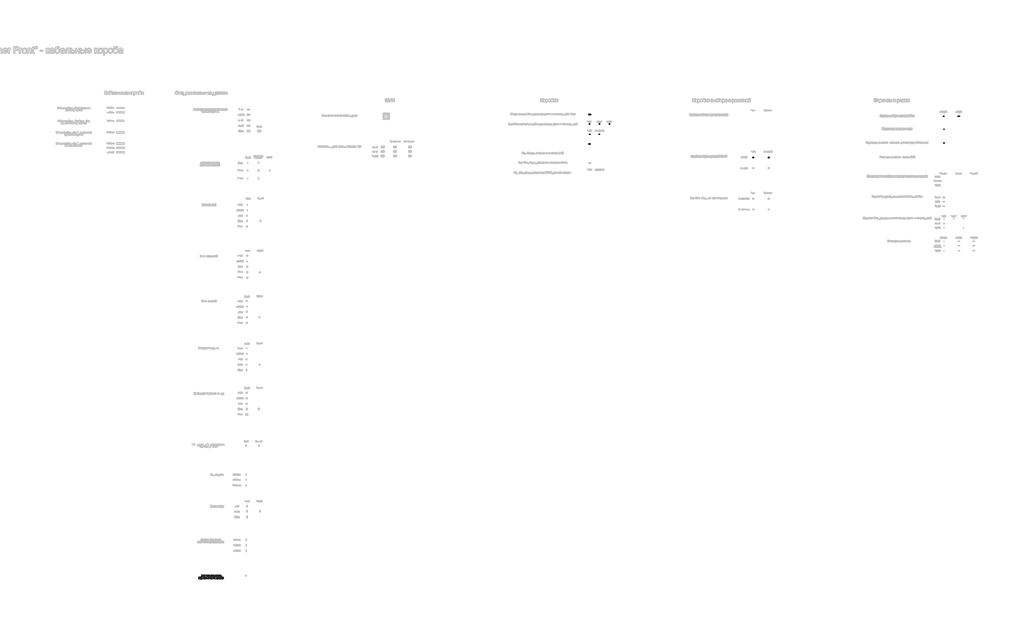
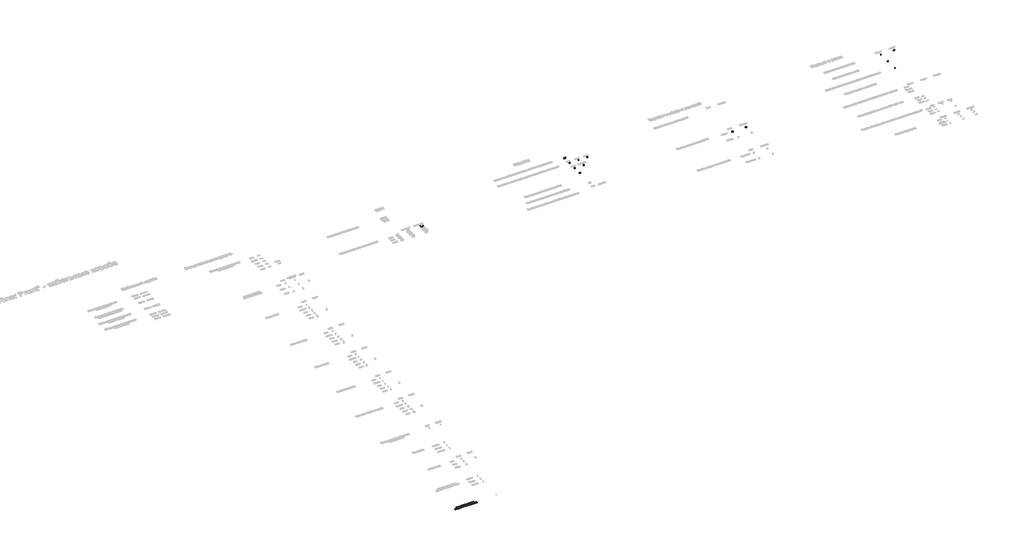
# One storey, part 3 of 48: 16 proxies.
"""IFC4 building model written with IfcOpenShell, lengths in millimetres."""

from ifc_helpers import new_model, si_unit, origin, origin_with_axes, place, context, project, spatial, polyline, outline, extrude, transform, mapped, element, save
from components import electrical_fixtures_89ff15f4, electrical_fixtures_2476e472, electrical_fixtures_2044470d, electrical_fixtures_13d03f2a, electrical_fixtures_9115882a, electrical_fixtures_15421d68, electrical_fixtures_28776af8, electrical_fixtures_e3511963, electrical_fixtures_ee8f7c53, electrical_fixtures_ff20663f, electrical_fixtures_f8ef05b3, proxy_45x45_d1c3b26b, viva_a7b974af

model = new_model("IFC4")

# Units and contexts
model_context = context("Model", 3, world=origin())
ifc_project = project(units=[si_unit("LENGTHUNIT", "METRE", prefix="MILLI")], contexts=[model_context])

# Site, building, storey
site = spatial("IfcSite", under=ifc_project)
building = spatial("IfcBuilding", under=site)
storey = spatial("IfcBuildingStorey", under=building, Name="Этаж 01", Elevation=0.0)

# Proxies
placement = place(None, origin())
element("IfcBuildingElementProxy", 1, Name="150 мм Arial", ObjectType="150 мм Arial", at=placement, inside=storey, context=model_context, shape_type="SweptSolid", body=[
    extrude(outline(polyline([(8779.1000301, -38574.0852323), (8839.2487363, -38423.4007671), (8855.2883913, -38423.4007671), (8915.4370975, -38574.0852323), (8895.5346815, -38574.0852323), (8878.281016, -38526.996337), (8816.2193234, -38526.996337), (8799.002446, -38574.0852323), (8779.1000301, -38574.0852323)]), holes=[polyline([(8823.1355049, -38508.1607788), (8871.4016227, -38508.1607788), (8857.826777, -38471.1150619), (8847.2685638, -38442.2363253), (8837.8875729, -38467.8777003), (8823.1355049, -38508.1607788)])]), origin_with_axes(), (0.0, 0.0, 1.0), 20.0),
    extrude(outline(polyline([(8949.6869112, -38463.4263282), (9020.3202543, -38463.4263282), (9020.3202543, -38555.2496742), (9034.4469229, -38555.2496742), (9034.4469229, -38604.6930143), (9015.6113648, -38604.6930143), (9015.6113648, -38574.0852323), (8937.9146874, -38574.0852323), (8937.9146874, -38604.6930143), (8919.0791292, -38604.6930143), (8919.0791292, -38555.2496742), (8930.8513531, -38555.2496742), (8939.409208, -38539.7848348), (8945.401086, -38519.3259974), (8949.6869112, -38463.4263282)]), holes=[polyline([(8966.1680246, -38482.2618864), (8961.7534407, -38525.1753211), (8952.041356, -38555.2496742), (9001.4846962, -38555.2496742), (9001.4846962, -38482.2618864), (8966.1680246, -38482.2618864)])]), origin_with_axes(), (0.0, 0.0, 1.0), 20.0),
    extrude(outline(polyline([(9126.2702689, -38559.9585637), (9108.0049279, -38572.724069), (9087.8266004, -38576.4396771), (9072.0858496, -38574.204794), (9060.4745741, -38567.5001446), (9053.3146707, -38557.3190104), (9050.9280363, -38544.6546727), (9054.5332799, -38529.7554519), (9064.0062412, -38518.9397213), (9077.1948108, -38512.7593038), (9093.4919831, -38509.9266124), (9126.1599043, -38503.4518893), (9126.2702689, -38499.2580345), (9124.9734849, -38490.8519309), (9121.0831328, -38485.3520951), (9112.3827236, -38481.268605), (9100.2610119, -38479.9074416), (9081.2047245, -38483.5310792), (9072.1180392, -38496.388555), (9053.2824811, -38494.0341102), (9061.4310673, -38475.6400104), (9077.8386043, -38464.861068), (9102.689033, -38461.0718834), (9125.5161108, -38464.4196096), (9138.4103748, -38472.8257132), (9144.1861221, -38485.6096125), (9145.1058271, -38502.0907259), (9145.1058271, -38525.524809), (9146.0623203, -38558.2479125), (9149.8147166, -38574.0852323), (9130.9791585, -38574.0852323), (9126.2702689, -38559.9585637)]), holes=[polyline([(9126.2702689, -38522.2874474), (9095.8832161, -38528.0631948), (9079.6780142, -38531.1166153), (9072.3387684, -38536.0830222), (9069.7635945, -38543.3302976), (9075.3737949, -38553.5206288), (9091.8365142, -38557.604119), (9110.8928015, -38553.0975645), (9123.1800602, -38542.1898634), (9126.1599043, -38527.6217364), (9126.2702689, -38522.2874474)])]), origin_with_axes(), (0.0, 0.0, 1.0), 20.0),
    extrude(outline(polyline([(9171.0047195, -38463.4263282), (9255.7647312, -38463.4263282), (9255.7647312, -38574.0852323), (9236.9291731, -38574.0852323), (9236.9291731, -38482.2618864), (9189.8402777, -38482.2618864), (9189.8402777, -38574.0852323), (9171.0047195, -38574.0852323), (9171.0047195, -38463.4263282)])), origin_with_axes(), (0.0, 0.0, 1.0), 20.0),
    extrude(outline(polyline([(9274.6002894, -38463.4263282), (9364.0691906, -38463.4263282), (9364.0691906, -38482.2618864), (9328.7525191, -38482.2618864), (9328.7525191, -38574.0852323), (9309.9169609, -38574.0852323), (9309.9169609, -38482.2618864), (9274.6002894, -38482.2618864), (9274.6002894, -38463.4263282)])), origin_with_axes(), (0.0, 0.0, 1.0), 20.0),
    extrude(outline(polyline([(9458.0262522, -38541.1230056), (9476.4939283, -38543.4774503), (9469.8398627, -38557.3925868), (9459.2218687, -38567.7944502), (9444.8790694, -38574.2783704), (9427.0505882, -38576.4396771), (9404.9500773, -38572.7102734), (9387.9447321, -38561.5220622), (9377.1014103, -38543.6016105), (9373.4869697, -38519.6754853), (9377.1381985, -38494.9446181), (9388.0918849, -38476.4493508), (9404.8673039, -38464.9162503), (9425.9837304, -38461.0718834), (9446.4425678, -38464.9070532), (9462.790324, -38476.4125626), (9473.5094856, -38494.8710417), (9477.0825395, -38519.5651207), (9476.9721749, -38524.6418922), (9392.3225278, -38524.6418922), (9395.582882, -38538.7409697), (9403.1566526, -38549.1060449), (9414.0873464, -38555.4796004), (9427.4184702, -38557.604119), (9445.8861463, -38553.6677816), (9458.0262522, -38541.1230056)]), holes=[polyline([(9392.3225278, -38505.806334), (9458.2469814, -38505.806334), (9455.6993985, -38495.8551261), (9450.7054005, -38488.7366095), (9439.7241229, -38482.1147336), (9425.910154, -38479.9074416), (9413.2136266, -38481.6686766), (9402.7151942, -38486.9523818), (9395.4173351, -38495.18834), (9392.3225278, -38505.806334)])]), origin_with_axes(), (0.0, 0.0, 1.0), 20.0),
    extrude(outline(polyline([(9495.9180977, -38616.4652382), (9495.9180977, -38463.4263282), (9514.7536558, -38463.4263282), (9514.7536558, -38481.8940044), (9527.7766785, -38466.2774137), (9545.3614378, -38461.0718834), (9558.0993519, -38462.8928993), (9569.2369793, -38468.3559469), (9578.3052705, -38477.1299325), (9584.8351759, -38488.8837623), (9590.0958884, -38517.9096517), (9588.6105649, -38534.0182845), (9584.1545942, -38548.4254632), (9576.8705307, -38560.4000221), (9566.9009286, -38569.2107959), (9555.2896532, -38574.6324568), (9543.0805695, -38576.4396771), (9526.6914266, -38571.6020289), (9514.7536558, -38559.3699525), (9514.7536558, -38616.4652382), (9495.9180977, -38616.4652382)]), holes=[polyline([(9514.7536558, -38519.6386971), (9516.7908024, -38536.5244806), (9522.902242, -38548.3334927), (9531.9199494, -38555.2864624), (9542.6758993, -38557.604119), (9553.606593, -38555.2036889), (9562.8542267, -38548.0023989), (9569.1588044, -38535.7611255), (9571.2603303, -38518.2407455), (9569.2093882, -38501.4469324), (9563.0565618, -38489.4723735), (9554.05265, -38482.2986746), (9543.4484514, -38479.9074416), (9532.8028662, -38482.4504259), (9523.454065, -38490.0793787), (9516.9287581, -38502.5551769), (9514.7536558, -38519.6386971)])]), origin_with_axes(), (0.0, 0.0, 1.0), 20.0),
    extrude(outline(polyline([(9686.628124, -38463.4263282), (9757.261467, -38463.4263282), (9757.261467, -38555.2496742), (9771.3881357, -38555.2496742), (9771.3881357, -38604.6930143), (9752.5525775, -38604.6930143), (9752.5525775, -38574.0852323), (9674.8559001, -38574.0852323), (9674.8559001, -38604.6930143), (9656.020342, -38604.6930143), (9656.020342, -38555.2496742), (9667.7925658, -38555.2496742), (9676.3504207, -38539.7848348), (9682.3422987, -38519.3259974), (9686.628124, -38463.4263282)]), holes=[polyline([(9703.1092374, -38482.2618864), (9698.6946534, -38525.1753211), (9688.9825687, -38555.2496742), (9738.4259089, -38555.2496742), (9738.4259089, -38482.2618864), (9703.1092374, -38482.2618864)])]), origin_with_axes(), (0.0, 0.0, 1.0), 20.0),
    extrude(outline(polyline([(9801.9959177, -38463.4263282), (9886.7559293, -38463.4263282), (9886.7559293, -38573.9748677), (9867.9203712, -38573.9748677), (9867.9203712, -38482.2618864), (9820.8314758, -38482.2618864), (9820.8314758, -38535.0529527), (9819.5622829, -38559.4067407), (9812.5909191, -38569.6890425), (9796.1098057, -38574.0852323), (9780.8059147, -38573.1287392), (9780.8059147, -38555.2496742), (9789.2304124, -38555.2496742), (9797.7468806, -38554.0908459), (9801.1497891, -38550.412026), (9801.9959177, -38533.9860949), (9801.9959177, -38463.4263282)])), origin_with_axes(), (0.0, 0.0, 1.0), 20.0),
    extrude(outline(polyline([(9999.7692783, -38463.4263282), (9999.7692783, -38574.0852323), (9980.9337201, -38574.0852323), (9980.9337201, -38531.7052265), (9970.6698124, -38531.7052265), (9956.6902966, -38534.0964595), (9943.5569094, -38550.1729027), (9928.547324, -38574.0852323), (9906.7687099, -38574.0852323), (9925.6778444, -38543.8453323), (9934.0287657, -38532.9928135), (9941.7174994, -38528.1735593), (9928.8416296, -38524.228025), (9919.7917325, -38516.7324293), (9914.4390495, -38506.7628272), (9912.6548218, -38495.3952736), (9915.09204, -38482.5010096), (9922.4036947, -38472.2922843), (9934.3322684, -38465.6428172), (9950.6202437, -38463.4263282), (9999.7692783, -38463.4263282)]), holes=[polyline([(9980.9337201, -38482.2618864), (9956.1016854, -38482.2618864), (9943.2763994, -38483.3517368), (9935.9969344, -38486.621288), (9931.49038, -38496.8300134), (9933.1504475, -38504.0083108), (9938.13065, -38508.9885133), (9961.6567036, -38512.8696683), (9980.9337201, -38512.8696683), (9980.9337201, -38482.2618864)])]), origin_with_axes(), (0.0, 0.0, 1.0), 20.0),
    extrude(outline(polyline([(10086.8837347, -38463.4263282), (10128.3808238, -38463.4263282), (10151.1343252, -38465.9463199), (10163.9366186, -38475.1801579), (10169.2893016, -38491.2749952), (10166.0519401, -38504.3532002), (10156.3030672, -38513.6790087), (10168.9582078, -38523.8877341), (10173.9981912, -38541.6380404), (10170.8068149, -38555.9946352), (10163.2192487, -38566.1021931), (10151.2079016, -38572.0894725), (10134.7451823, -38574.0852323), (10086.8837347, -38574.0852323), (10086.8837347, -38463.4263282)]), holes=[polyline([(10105.7192929, -38505.806334), (10124.3341218, -38505.806334), (10139.6931951, -38504.8498409), (10147.1611996, -38501.0238681), (10150.4537435, -38494.1076866), (10149.0098067, -38488.4882891), (10144.6779962, -38484.8738485), (10124.922733, -38482.2618864), (10105.7192929, -38482.2618864), (10105.7192929, -38505.806334)]), polyline([(10105.7192929, -38555.2496742), (10128.8222822, -38555.2496742), (10149.3133093, -38551.8467657), (10153.5531493, -38547.2068541), (10155.162633, -38540.092936), (10151.9436656, -38531.0246448), (10143.5559561, -38525.7455382), (10126.9828722, -38524.6418922), (10105.7192929, -38524.6418922), (10105.7192929, -38555.2496742)])]), origin_with_axes(), (0.0, 0.0, 1.0), 20.0),
    extrude(outline(polyline([(10197.5426389, -38463.4263282), (10239.0397279, -38463.4263282), (10261.7932293, -38465.9463199), (10274.5955228, -38475.1801579), (10279.9482058, -38491.2749952), (10276.7108442, -38504.3532002), (10266.9619714, -38513.6790087), (10279.617112, -38523.8877341), (10284.6570953, -38541.6380404), (10281.465719, -38555.9946352), (10273.8781529, -38566.1021931), (10261.8668057, -38572.0894725), (10245.4040864, -38574.0852323), (10197.5426389, -38574.0852323), (10197.5426389, -38463.4263282)]), holes=[polyline([(10216.378197, -38505.806334), (10234.993026, -38505.806334), (10250.3520993, -38504.8498409), (10257.8201038, -38501.0238681), (10261.1126476, -38494.1076866), (10259.6687108, -38488.4882891), (10255.3369003, -38484.8738485), (10235.5816372, -38482.2618864), (10216.378197, -38482.2618864), (10216.378197, -38505.806334)]), polyline([(10216.378197, -38555.2496742), (10239.4811863, -38555.2496742), (10259.9722135, -38551.8467657), (10264.2120534, -38547.2068541), (10265.8215372, -38540.092936), (10262.6025697, -38531.0246448), (10254.2148602, -38525.7455382), (10237.6417763, -38524.6418922), (10216.378197, -38524.6418922), (10216.378197, -38555.2496742)])]), origin_with_axes(), (0.0, 0.0, 1.0), 20.0),
    extrude(outline(polyline([(10303.4926535, -38518.7557803), (10307.5669466, -38492.0751386), (10319.7898259, -38473.3223539), (10334.8913818, -38464.134501), (10352.9727818, -38461.0718834), (10372.7602347, -38464.8012872), (10388.5653649, -38475.9894983), (10398.9258416, -38493.7536002), (10402.3793338, -38517.2106759), (10400.8526235, -38536.2393721), (10396.2724927, -38550.7247257), (10388.7722985, -38561.572646), (10378.4853982, -38569.6890425), (10366.2671174, -38574.7520185), (10352.9727818, -38576.4396771), (10332.9462057, -38572.724069), (10317.1594696, -38561.5772445), (10306.9093575, -38543.4406621), (10303.4926535, -38518.7557803)]), holes=[polyline([(10322.3282116, -38518.7189921), (10324.5079125, -38535.765724), (10331.0470149, -38547.9104284), (10340.8878583, -38555.1806963), (10352.9727818, -38557.604119), (10365.0025231, -38555.1669007), (10374.8249723, -38547.8552461), (10381.3640748, -38535.5495934), (10383.5437756, -38518.1303809), (10381.3502792, -38501.5802896), (10374.76979, -38489.6011322), (10364.9335452, -38482.3308642), (10352.9727818, -38479.9074416), (10340.8878583, -38482.3216672), (10331.0470149, -38489.564344), (10324.5079125, -38501.6814572), (10322.3282116, -38518.7189921)])]), origin_with_axes(), (0.0, 0.0, 1.0), 20.0),
    extrude(outline(polyline([(10440.0504501, -38463.4263282), (10510.6837932, -38463.4263282), (10510.6837932, -38555.2496742), (10524.8104618, -38555.2496742), (10524.8104618, -38604.6930143), (10505.9749036, -38604.6930143), (10505.9749036, -38574.0852323), (10428.2782262, -38574.0852323), (10428.2782262, -38604.6930143), (10409.4426681, -38604.6930143), (10409.4426681, -38555.2496742), (10421.2148919, -38555.2496742), (10429.7727469, -38539.7848348), (10435.7646248, -38519.3259974), (10440.0504501, -38463.4263282)]), holes=[polyline([(10456.5315635, -38482.2618864), (10452.1169795, -38525.1753211), (10442.4048949, -38555.2496742), (10491.848235, -38555.2496742), (10491.848235, -38482.2618864), (10456.5315635, -38482.2618864)])]), origin_with_axes(), (0.0, 0.0, 1.0), 20.0),
    extrude(outline(polyline([(10616.6338078, -38559.9585637), (10598.3684667, -38572.724069), (10578.1901393, -38576.4396771), (10562.4493884, -38574.204794), (10550.8381129, -38567.5001446), (10543.6782096, -38557.3190104), (10541.2915752, -38544.6546727), (10544.8968187, -38529.7554519), (10554.3697801, -38518.9397213), (10567.5583496, -38512.7593038), (10583.855522, -38509.9266124), (10616.5234432, -38503.4518893), (10616.6338078, -38499.2580345), (10615.3370237, -38490.8519309), (10611.4466716, -38485.3520951), (10602.7462625, -38481.268605), (10590.6245507, -38479.9074416), (10571.5682634, -38483.5310792), (10562.4815781, -38496.388555), (10543.6460199, -38494.0341102), (10551.7946061, -38475.6400104), (10568.2021431, -38464.861068), (10593.0525719, -38461.0718834), (10615.8796497, -38464.4196096), (10628.7739136, -38472.8257132), (10634.5496609, -38485.6096125), (10635.4693659, -38502.0907259), (10635.4693659, -38525.524809), (10636.4258591, -38558.2479125), (10640.1782555, -38574.0852323), (10621.3426973, -38574.0852323), (10616.6338078, -38559.9585637)]), holes=[polyline([(10616.6338078, -38522.2874474), (10586.246755, -38528.0631948), (10570.0415531, -38531.1166153), (10562.7023073, -38536.0830222), (10560.1271333, -38543.3302976), (10565.7373337, -38553.5206288), (10582.200053, -38557.604119), (10601.2563404, -38553.0975645), (10613.543599, -38542.1898634), (10616.5234432, -38527.6217364), (10616.6338078, -38522.2874474)])]), origin_with_axes(), (0.0, 0.0, 1.0), 20.0),
    extrude(outline(polyline([(8571.7985258, -38646.388555), (8590.6340839, -38646.388555), (8590.6340839, -38693.4774503), (8603.2524364, -38690.092936), (8613.5899204, -38670.3744611), (8622.179965, -38653.3599188), (8629.7583341, -38647.8232947), (8643.5355148, -38646.388555), (8647.1407584, -38646.388555), (8647.1407584, -38665.3344777), (8642.0639869, -38665.2241131), (8632.866937, -38667.2106759), (8626.3922139, -38679.6082991), (8618.7954507, -38693.0175979), (8608.1452669, -38699.5842915), (8620.0278554, -38706.9143402), (8631.6897146, -38722.356187), (8651.8496479, -38757.0474591), (8630.4389158, -38757.0474591), (8610.6836527, -38723.091951), (8600.7508388, -38708.726159), (8590.6340839, -38705.2496742), (8590.6340839, -38757.0474591), (8571.7985258, -38757.0474591), (8571.7985258, -38646.388555)])), origin_with_axes(), (0.0, 0.0, 1.0), 20.0),
    extrude(outline(polyline([(8658.9129822, -38701.718007), (8662.9872753, -38675.0373653), (8675.2101546, -38656.2845806), (8690.3117105, -38647.0967278), (8708.3931106, -38644.0341102), (8728.1805634, -38647.7635139), (8743.9856936, -38658.9517251), (8754.3461703, -38676.7158269), (8757.7996625, -38700.1729027), (8756.2729523, -38719.2015989), (8751.6928214, -38733.6869524), (8744.1926273, -38744.5348728), (8733.905727, -38752.6512693), (8721.6874462, -38757.7142452), (8708.3931106, -38759.4019039), (8688.3665345, -38755.6862957), (8672.5797984, -38744.5394713), (8662.3296863, -38726.4028889), (8658.9129822, -38701.718007)]), holes=[polyline([(8677.7485404, -38701.6812188), (8679.9282412, -38718.7279508), (8686.4673437, -38730.8726552), (8696.3081871, -38738.1429231), (8708.3931106, -38740.5663457), (8720.4228518, -38738.1291275), (8730.2453011, -38730.8174729), (8736.7844036, -38718.5118201), (8738.9641044, -38701.0926076), (8736.770608, -38684.5425164), (8730.1901188, -38672.5633589), (8720.353874, -38665.293091), (8708.3931106, -38662.8696683), (8696.3081871, -38665.2838939), (8686.4673437, -38672.5265707), (8679.9282412, -38684.6436839), (8677.7485404, -38701.6812188)])]), origin_with_axes(), (0.0, 0.0, 1.0), 20.0),
    extrude(outline(polyline([(8778.9896655, -38799.427465), (8778.9896655, -38646.388555), (8797.8252236, -38646.388555), (8797.8252236, -38664.8562311), (8810.8482463, -38649.2396404), (8828.4330056, -38644.0341102), (8841.1709197, -38645.8551261), (8852.3085471, -38651.3181737), (8861.3768383, -38660.0921593), (8867.9067437, -38671.845989), (8873.1674562, -38700.8718785), (8871.6821327, -38716.9805113), (8867.226162, -38731.38769), (8859.9420985, -38743.3622489), (8849.9724964, -38752.1730227), (8838.361221, -38757.5946836), (8826.1521373, -38759.4019039), (8809.7629944, -38754.5642556), (8797.8252236, -38742.3321793), (8797.8252236, -38799.427465), (8778.9896655, -38799.427465)]), holes=[polyline([(8797.8252236, -38702.6009238), (8799.8623702, -38719.4867074), (8805.9738098, -38731.2957195), (8814.9915172, -38738.2486892), (8825.7474671, -38740.5663457), (8836.6781608, -38738.1659157), (8845.9257945, -38730.9646257), (8852.2303722, -38718.7233523), (8854.3318981, -38701.2029722), (8852.280956, -38684.4091592), (8846.1281296, -38672.4346002), (8837.1242178, -38665.2609013), (8826.5200192, -38662.8696683), (8815.874434, -38665.4126526), (8806.5256328, -38673.0416055), (8800.0003259, -38685.5174037), (8797.8252236, -38702.6009238)])]), origin_with_axes(), (0.0, 0.0, 1.0), 20.0),
    extrude(outline(polyline([(8889.6485696, -38701.718007), (8893.7228627, -38675.0373653), (8905.945742, -38656.2845806), (8921.0472979, -38647.0967278), (8939.128698, -38644.0341102), (8958.9161508, -38647.7635139), (8974.721281, -38658.9517251), (8985.0817577, -38676.7158269), (8988.5352499, -38700.1729027), (8987.0085396, -38719.2015989), (8982.4284088, -38733.6869524), (8974.9282146, -38744.5348728), (8964.6413143, -38752.6512693), (8952.4230336, -38757.7142452), (8939.128698, -38759.4019039), (8919.1021219, -38755.6862957), (8903.3153857, -38744.5394713), (8893.0652737, -38726.4028889), (8889.6485696, -38701.718007)]), holes=[polyline([(8908.4841278, -38701.6812188), (8910.6638286, -38718.7279508), (8917.2029311, -38730.8726552), (8927.0437744, -38738.1429231), (8939.128698, -38740.5663457), (8951.1584392, -38738.1291275), (8960.9808885, -38730.8174729), (8967.5199909, -38718.5118201), (8969.6996918, -38701.0926076), (8967.5061954, -38684.5425164), (8960.9257062, -38672.5633589), (8951.0894613, -38665.293091), (8939.128698, -38662.8696683), (8927.0437744, -38665.2838939), (8917.2029311, -38672.5265707), (8910.6638286, -38684.6436839), (8908.4841278, -38701.6812188)])]), origin_with_axes(), (0.0, 0.0, 1.0), 20.0),
    extrude(outline(polyline([(9087.4219302, -38604.0085491), (9103.9030436, -38604.0085491), (9099.0470013, -38618.7054348), (9089.4452812, -38624.0213297), (9066.3790801, -38625.198552), (9035.3114456, -38629.5395596), (9028.183732, -38635.1865482), (9023.392069, -38643.445499), (9019.3637611, -38668.0568045), (9035.6793276, -38650.0305867), (9045.5983459, -38645.5332293), (9056.7037836, -38644.0341102), (9076.3026969, -38647.8462874), (9092.2043962, -38659.2828189), (9102.7442153, -38677.2216647), (9106.2574884, -38700.5407847), (9104.5146474, -38718.5210172), (9099.2861246, -38732.9511884), (9082.7498289, -38752.5041165), (9071.4558516, -38757.677457), (9056.7037836, -38759.4019039), (9039.7030369, -38757.1808163), (9026.9605243, -38750.5175537), (9017.584132, -38740.3916018), (9010.681746, -38727.7824464), (9006.432709, -38708.7951369), (9005.0163633, -38679.5347227), (9008.5894172, -38643.3949152), (9019.3085788, -38621.3541852), (9037.4405627, -38610.1107917), (9063.2520831, -38606.3629939), (9084.2213569, -38605.9399296), (9087.4219302, -38604.0085491)]), holes=[polyline([(9087.4219302, -38699.9521735), (9085.3801852, -38685.1311276), (9079.2549499, -38673.2623347), (9069.4141066, -38665.4678349), (9056.225537, -38662.8696683), (9042.4759475, -38665.6149877), (9032.2764192, -38673.8509459), (9025.9580459, -38686.676232), (9023.8519215, -38703.189535), (9026.1787751, -38719.1970003), (9033.1593359, -38730.9462316), (9043.5520023, -38738.1613172), (9056.1151724, -38740.5663457), (9068.7427219, -38737.7842381), (9078.7399151, -38729.4379154), (9085.2514265, -38716.5022647), (9087.4219302, -38699.9521735)])]), origin_with_axes(), (0.0, 0.0, 1.0), 20.0),
    extrude(outline(polyline([(9200.4352791, -38742.9207905), (9182.1699381, -38755.6862957), (9161.9916107, -38759.4019039), (9146.2508598, -38757.1670208), (9134.6395843, -38750.4623714), (9127.479681, -38740.2812372), (9125.0930465, -38727.6168995), (9128.6982901, -38712.7176787), (9138.1712515, -38701.901948), (9151.359821, -38695.7215305), (9167.6569934, -38692.8888392), (9200.3249145, -38686.414116), (9200.4352791, -38682.2202613), (9199.1384951, -38673.8141577), (9195.248143, -38668.3143219), (9186.5477338, -38664.2308317), (9174.4260221, -38662.8696683), (9155.3697347, -38666.493306), (9146.2830495, -38679.3507817), (9127.4474913, -38676.996337), (9135.5960775, -38658.6022372), (9152.0036145, -38647.8232947), (9176.8540433, -38644.0341102), (9199.6811211, -38647.3818364), (9212.575385, -38655.7879399), (9218.3511323, -38668.5718393), (9219.2708373, -38685.0529527), (9219.2708373, -38708.4870358), (9220.2273305, -38741.2101392), (9223.9797268, -38757.0474591), (9205.1441687, -38757.0474591), (9200.4352791, -38742.9207905)]), holes=[polyline([(9200.4352791, -38705.2496742), (9170.0482263, -38711.0254215), (9153.8430245, -38714.0788421), (9146.5037787, -38719.045249), (9143.9286047, -38726.2925243), (9149.5388051, -38736.4828556), (9166.0015244, -38740.5663457), (9185.0578117, -38736.0597913), (9197.3450704, -38725.1520901), (9200.3249145, -38710.5839631), (9200.4352791, -38705.2496742)])]), origin_with_axes(), (0.0, 0.0, 1.0), 20.0),
    extrude(outline(polyline([(9299.3219594, -38627.5529968), (9299.3219594, -38608.7174387), (9398.2086398, -38608.7174387), (9398.2086398, -38623.9477533), (9370.1576376, -38664.469955), (9357.8473864, -38689.9319876), (9348.6917232, -38716.1021931), (9341.7019653, -38757.0474591), (9322.8664071, -38757.0474591), (9330.3528057, -38714.5570887), (9339.0670105, -38690.0975345), (9350.8990152, -38666.5300942), (9379.3730816, -38627.5529968), (9299.3219594, -38627.5529968)])), origin_with_axes(), (0.0, 0.0, 1.0), 20.0),
    extrude(outline(polyline([(9414.6897531, -38682.9192371), (9416.0739091, -38658.7999738), (9420.2263772, -38639.564344), (9427.1057705, -38624.918042), (9436.6707023, -38614.5667624), (9448.9901507, -38608.413936), (9464.1330933, -38606.3629939), (9486.1324366, -38611.2190362), (9501.325963, -38625.2169461), (9510.1551309, -38647.5105951), (9513.5764334, -38682.9192371), (9512.206073, -38706.9005446), (9508.0949917, -38726.0901892), (9501.2569851, -38740.7502867), (9491.7058488, -38751.1429531), (9479.3588094, -38757.3371662), (9464.1330933, -38759.4019039), (9444.5617711, -38755.8150544), (9429.6993385, -38745.0545061), (9418.4421495, -38719.5694809), (9414.6897531, -38682.9192371)]), holes=[polyline([(9433.5253113, -38682.8824489), (9435.7326033, -38712.5107451), (9442.3544792, -38729.6586446), (9452.2137166, -38737.8394204), (9464.1330933, -38740.5663457), (9476.0524699, -38737.8302234), (9485.9117074, -38729.6218564), (9492.5335833, -38712.4647598), (9494.7408753, -38682.8824489), (9492.6071597, -38653.9209388), (9486.206013, -38636.6396821), (9476.3651696, -38628.0588346), (9463.9123641, -38625.198552), (9452.1217461, -38627.7185437), (9442.6487848, -38635.2785187), (9435.8061797, -38653.6358303), (9433.5253113, -38682.8824489)])]), origin_with_axes(), (0.0, 0.0, 1.0), 20.0),
    extrude(outline(polyline([(9537.2680339, -38714.6674533), (9567.1768401, -38682.8824489), (9537.2680339, -38651.0974445), (9548.893105, -38634.6163311), (9580.8252622, -38668.3878983), (9612.6102665, -38634.6163311), (9624.2353376, -38651.0974445), (9594.3265314, -38682.8824489), (9624.2353376, -38714.6674533), (9612.6102665, -38731.1485667), (9580.8252622, -38697.3769995), (9548.893105, -38731.1485667), (9537.2680339, -38714.6674533)])), origin_with_axes(), (0.0, 0.0, 1.0), 20.0),
    extrude(outline(polyline([(9749.0209104, -38738.211901), (9749.0209104, -38757.0474591), (9650.1342301, -38757.0474591), (9652.157581, -38744.0612247), (9663.5987111, -38724.0668382), (9687.179947, -38702.2330418), (9719.7007153, -38670.8527076), (9725.7983594, -38660.036977), (9727.8309074, -38649.5155519), (9725.9133225, -38640.0839773), (9720.1605678, -38632.2434923), (9711.3176044, -38626.9597871), (9700.1293932, -38625.198552), (9688.380162, -38626.9184004), (9679.25209, -38632.0779454), (9673.3613795, -38640.2725168), (9671.324233, -38651.0974445), (9652.4886748, -38648.7429997), (9657.0550101, -38630.5236439), (9666.9280431, -38617.2155127), (9681.5927392, -38609.0761236), (9700.5340634, -38606.3629939), (9719.6133434, -38609.3796263), (9734.2504482, -38618.4295233), (9743.5624613, -38631.9491867), (9746.6664656, -38648.3751177), (9743.3187394, -38666.2357886), (9732.1903091, -38684.7034648), (9705.2061647, -38710.5103867), (9683.5379152, -38728.628575), (9675.0398411, -38738.211901), (9749.0209104, -38738.211901)])), origin_with_axes(), (0.0, 0.0, 1.0), 20.0),
    extrude(outline(polyline([(9864.388704, -38738.211901), (9864.388704, -38757.0474591), (9765.5020237, -38757.0474591), (9767.5253747, -38744.0612247), (9778.9665048, -38724.0668382), (9802.5477407, -38702.2330418), (9835.068509, -38670.8527076), (9841.1661531, -38660.036977), (9843.1987011, -38649.5155519), (9841.2811162, -38640.0839773), (9835.5283615, -38632.2434923), (9826.6853981, -38626.9597871), (9815.4971869, -38625.198552), (9803.7479557, -38626.9184004), (9794.6198837, -38632.0779454), (9788.7291732, -38640.2725168), (9786.6920267, -38651.0974445), (9767.8564685, -38648.7429997), (9772.4228038, -38630.5236439), (9782.2958368, -38617.2155127), (9796.9605329, -38609.0761236), (9815.9018571, -38606.3629939), (9834.9811371, -38609.3796263), (9849.6182419, -38618.4295233), (9858.9302549, -38631.9491867), (9862.0342593, -38648.3751177), (9858.6865331, -38666.2357886), (9847.5581028, -38684.7034648), (9820.5739584, -38710.5103867), (9798.9057089, -38728.628575), (9790.4076348, -38738.211901), (9864.388704, -38738.211901)])), origin_with_axes(), (0.0, 0.0, 1.0), 20.0),
    extrude(outline(polyline([(9946.794271, -38646.388555), (9988.29136, -38646.388555), (10011.0448614, -38648.9085466), (10023.8471549, -38658.1423847), (10029.1998379, -38674.237222), (10025.9624763, -38687.3154269), (10016.2136035, -38696.6412355), (10028.8687441, -38706.8499609), (10033.9087274, -38724.6002671), (10030.7173511, -38738.956862), (10023.129785, -38749.0644198), (10011.1184378, -38755.0516993), (9994.6557185, -38757.0474591), (9946.794271, -38757.0474591), (9946.794271, -38646.388555)]), holes=[polyline([(9965.6298291, -38688.7685608), (9984.2446581, -38688.7685608), (9999.6037314, -38687.8120676), (10007.0717359, -38683.9860949), (10010.3642797, -38677.0699134), (10008.9203429, -38671.4505159), (10004.5885324, -38667.8360753), (9984.8332693, -38665.2241131), (9965.6298291, -38665.2241131), (9965.6298291, -38688.7685608)]), polyline([(9965.6298291, -38738.211901), (9988.7328184, -38738.211901), (10009.2238455, -38734.8089925), (10013.4636855, -38730.1690808), (10015.0731693, -38723.0551628), (10011.8542018, -38713.9868716), (10003.4664923, -38708.7077649), (9986.8934084, -38707.604119), (9965.6298291, -38707.604119), (9965.6298291, -38738.211901)])]), origin_with_axes(), (0.0, 0.0, 1.0), 20.0),
    extrude(outline(polyline([(10116.3142943, -38646.388555), (10135.1498525, -38646.388555), (10135.1498525, -38693.4774503), (10147.7682049, -38690.092936), (10158.105689, -38670.3744611), (10166.6957336, -38653.3599188), (10174.2741027, -38647.8232947), (10188.0512834, -38646.388555), (10191.656527, -38646.388555), (10191.656527, -38665.3344777), (10186.5797554, -38665.2241131), (10177.3827055, -38667.2106759), (10170.9079824, -38679.6082991), (10163.3112192, -38693.0175979), (10152.6610355, -38699.5842915), (10164.5436239, -38706.9143402), (10176.2054832, -38722.356187), (10196.3654165, -38757.0474591), (10174.9546844, -38757.0474591), (10155.1994212, -38723.091951), (10145.2666074, -38708.726159), (10135.1498525, -38705.2496742), (10135.1498525, -38757.0474591), (10116.3142943, -38757.0474591), (10116.3142943, -38646.388555)])), origin_with_axes(), (0.0, 0.0, 1.0), 20.0),
    extrude(outline(polyline([(10203.4287508, -38701.718007), (10207.5030439, -38675.0373653), (10219.7259232, -38656.2845806), (10234.8274791, -38647.0967278), (10252.9088791, -38644.0341102), (10272.696332, -38647.7635139), (10288.5014622, -38658.9517251), (10298.8619389, -38676.7158269), (10302.3154311, -38700.1729027), (10300.7887208, -38719.2015989), (10296.20859, -38733.6869524), (10288.7083958, -38744.5348728), (10278.4214955, -38752.6512693), (10266.2032147, -38757.7142452), (10252.9088791, -38759.4019039), (10232.882303, -38755.6862957), (10217.0955669, -38744.5394713), (10206.8454548, -38726.4028889), (10203.4287508, -38701.718007)]), holes=[polyline([(10222.2643089, -38701.6812188), (10224.4440098, -38718.7279508), (10230.9831122, -38730.8726552), (10240.8239556, -38738.1429231), (10252.9088791, -38740.5663457), (10264.9386204, -38738.1291275), (10274.7610697, -38730.8174729), (10281.3001721, -38718.5118201), (10283.4798729, -38701.0926076), (10281.2863766, -38684.5425164), (10274.7058874, -38672.5633589), (10264.8696425, -38665.293091), (10252.9088791, -38662.8696683), (10240.8239556, -38665.2838939), (10230.9831122, -38672.5265707), (10224.4440098, -38684.6436839), (10222.2643089, -38701.6812188)])]), origin_with_axes(), (0.0, 0.0, 1.0), 20.0),
    extrude(outline(polyline([(10323.505434, -38799.427465), (10323.505434, -38646.388555), (10342.3409922, -38646.388555), (10342.3409922, -38664.8562311), (10355.3640148, -38649.2396404), (10372.9487742, -38644.0341102), (10385.6866883, -38645.8551261), (10396.8243157, -38651.3181737), (10405.8926068, -38660.0921593), (10412.4225123, -38671.845989), (10417.6832248, -38700.8718785), (10416.1979012, -38716.9805113), (10411.7419306, -38731.38769), (10404.4578671, -38743.3622489), (10394.488265, -38752.1730227), (10382.8769895, -38757.5946836), (10370.6679058, -38759.4019039), (10354.2787629, -38754.5642556), (10342.3409922, -38742.3321793), (10342.3409922, -38799.427465), (10323.505434, -38799.427465)]), holes=[polyline([(10342.3409922, -38702.6009238), (10344.3781387, -38719.4867074), (10350.4895784, -38731.2957195), (10359.5072858, -38738.2486892), (10370.2632356, -38740.5663457), (10381.1939294, -38738.1659157), (10390.441563, -38730.9646257), (10396.7461407, -38718.7233523), (10398.8476666, -38701.2029722), (10396.7967245, -38684.4091592), (10390.6438981, -38672.4346002), (10381.6399863, -38665.2609013), (10371.0357878, -38662.8696683), (10360.3902026, -38665.4126526), (10351.0414014, -38673.0416055), (10344.5160945, -38685.5174037), (10342.3409922, -38702.6009238)])]), origin_with_axes(), (0.0, 0.0, 1.0), 20.0),
    extrude(outline(polyline([(10434.1643382, -38701.718007), (10438.2386313, -38675.0373653), (10450.4615106, -38656.2845806), (10465.5630665, -38647.0967278), (10483.6444665, -38644.0341102), (10503.4319193, -38647.7635139), (10519.2370496, -38658.9517251), (10529.5975262, -38676.7158269), (10533.0510185, -38700.1729027), (10531.5243082, -38719.2015989), (10526.9441774, -38733.6869524), (10519.4439832, -38744.5348728), (10509.1570829, -38752.6512693), (10496.9388021, -38757.7142452), (10483.6444665, -38759.4019039), (10463.6178904, -38755.6862957), (10447.8311543, -38744.5394713), (10437.5810422, -38726.4028889), (10434.1643382, -38701.718007)]), holes=[polyline([(10452.9998963, -38701.6812188), (10455.1795971, -38718.7279508), (10461.7186996, -38730.8726552), (10471.559543, -38738.1429231), (10483.6444665, -38740.5663457), (10495.6742078, -38738.1291275), (10505.496657, -38730.8174729), (10512.0357595, -38718.5118201), (10514.2154603, -38701.0926076), (10512.0219639, -38684.5425164), (10505.4414747, -38672.5633589), (10495.6052299, -38665.293091), (10483.6444665, -38662.8696683), (10471.559543, -38665.2838939), (10461.7186996, -38672.5265707), (10455.1795971, -38684.6436839), (10452.9998963, -38701.6812188)])]), origin_with_axes(), (0.0, 0.0, 1.0), 20.0),
    extrude(outline(polyline([(10631.9376988, -38604.0085491), (10648.4188122, -38604.0085491), (10643.5627698, -38618.7054348), (10633.9610498, -38624.0213297), (10610.8948487, -38625.198552), (10579.8272142, -38629.5395596), (10572.6995005, -38635.1865482), (10567.9078375, -38643.445499), (10563.8795297, -38668.0568045), (10580.1950962, -38650.0305867), (10590.1141145, -38645.5332293), (10601.2195522, -38644.0341102), (10620.8184655, -38647.8462874), (10636.7201647, -38659.2828189), (10647.2599839, -38677.2216647), (10650.7732569, -38700.5407847), (10649.030416, -38718.5210172), (10643.8018931, -38732.9511884), (10627.2655974, -38752.5041165), (10615.9716202, -38757.677457), (10601.2195522, -38759.4019039), (10584.2188055, -38757.1808163), (10571.4762929, -38750.5175537), (10562.0999005, -38740.3916018), (10555.1975146, -38727.7824464), (10550.9484775, -38708.7951369), (10549.5321319, -38679.5347227), (10553.1051857, -38643.3949152), (10563.8243474, -38621.3541852), (10581.9563312, -38610.1107917), (10607.7678517, -38606.3629939), (10628.7371254, -38605.9399296), (10631.9376988, -38604.0085491)]), holes=[polyline([(10631.9376988, -38699.9521735), (10629.8959537, -38685.1311276), (10623.7707185, -38673.2623347), (10613.9298751, -38665.4678349), (10600.7413056, -38662.8696683), (10586.991716, -38665.6149877), (10576.7921877, -38673.8509459), (10570.4738144, -38686.676232), (10568.36769, -38703.189535), (10570.6945436, -38719.1970003), (10577.6751045, -38730.9462316), (10588.0677709, -38738.1613172), (10600.630941, -38740.5663457), (10613.2584905, -38737.7842381), (10623.2556837, -38729.4379154), (10629.767195, -38716.5022647), (10631.9376988, -38699.9521735)])]), origin_with_axes(), (0.0, 0.0, 1.0), 20.0),
    extrude(outline(polyline([(10674.3177046, -38646.388555), (10693.1532628, -38646.388555), (10693.1532628, -38693.4774503), (10705.7716152, -38690.092936), (10716.1090993, -38670.3744611), (10724.6991439, -38653.3599188), (10732.277513, -38647.8232947), (10746.0546937, -38646.388555), (10749.6599372, -38646.388555), (10749.6599372, -38665.3344777), (10744.5831657, -38665.2241131), (10735.3861158, -38667.2106759), (10728.9113927, -38679.6082991), (10721.3146295, -38693.0175979), (10710.6644457, -38699.5842915), (10722.5470342, -38706.9143402), (10734.2088934, -38722.356187), (10754.3688268, -38757.0474591), (10732.9580947, -38757.0474591), (10713.2028315, -38723.091951), (10703.2700176, -38708.726159), (10693.1532628, -38705.2496742), (10693.1532628, -38757.0474591), (10674.3177046, -38757.0474591), (10674.3177046, -38646.388555)])), origin_with_axes(), (0.0, 0.0, 1.0), 20.0),
    extrude(outline(polyline([(10766.1410506, -38646.388555), (10784.9766088, -38646.388555), (10784.9766088, -38730.7806847), (10831.2561638, -38646.388555), (10855.6099518, -38646.388555), (10855.6099518, -38757.0474591), (10836.7743937, -38757.0474591), (10836.7743937, -38673.1703642), (10790.7891443, -38757.0474591), (10766.1410506, -38757.0474591), (10766.1410506, -38646.388555)])), origin_with_axes(), (0.0, 0.0, 1.0), 20.0),
])
electrical_fixtures_shape = electrical_fixtures_89ff15f4(model_context)
element("IfcBuildingElementProxy", 2, Name="КНС_КаркасДляМонтажаВСистемыОрганизацииРабочихМест_ILF_DKC : 2 модуля", ObjectType="КНС_КаркасДляМонтажаВСистемыОрганизацииРабочихМест_ILF_DKC : 2 модуля", at=placement, inside=storey, context=model_context, shape_type="MappedRepresentation", body=[
    mapped(electrical_fixtures_shape, transform((77304.4662282, 1403.8178186, 0.0), x_axis=(1.0, 0.0, 0.0), y_axis=(0.0, 1.0, 0.0), z_axis=(0.0, 0.0, 1.0))),
])
electrical_fixtures_2_shape = electrical_fixtures_2476e472(model_context)
element("IfcBuildingElementProxy", 3, Name="КНС_КаркасДляМонтажаВСтену_ILF_DKC : 2 модуля", ObjectType="КНС_КаркасДляМонтажаВСтену_ILF_DKC : 2 модуля", at=placement, inside=storey, context=model_context, shape_type="MappedRepresentation", body=[
    mapped(electrical_fixtures_2_shape, transform((77304.4662282, 2668.7257341, 0.0), x_axis=(1.0, 0.0, 0.0), y_axis=(0.0, 1.0, 0.0), z_axis=(0.0, 0.0, 1.0))),
])
electrical_fixtures_3_shape = electrical_fixtures_2044470d(model_context)
element("IfcBuildingElementProxy", 4, Name="КНС_КоробкаМонтажнаяПод4МодуляЭлектроустановочныхИзделийPDD-N120_ILF_DKC : Белая", ObjectType="КНС_КоробкаМонтажнаяПод4МодуляЭлектроустановочныхИзделийPDD-N120_ILF_DKC : Белая", at=placement, inside=storey, context=model_context, shape_type="MappedRepresentation", body=[
    mapped(electrical_fixtures_3_shape, transform((44616.8932526, 1323.5910088, 0.0), x_axis=(1.0, 0.0, 0.0), y_axis=(0.0, 1.0, 0.0), z_axis=(0.0, 0.0, 1.0))),
])
electrical_fixtures_4_shape = electrical_fixtures_13d03f2a(model_context)
element("IfcBuildingElementProxy", 5, Name="КНС_КоробкаВСбореСРозеткойRJ-45_ILF_DKC : Белая", ObjectType="КНС_КоробкаВСбореСРозеткойRJ-45_ILF_DKC : Белая", at=placement, inside=storey, context=model_context, shape_type="MappedRepresentation", body=[
    mapped(electrical_fixtures_4_shape, transform((59727.9064878, 127.1355934, 0.0), x_axis=(1.0, 0.0, 0.0), y_axis=(0.0, 1.0, 0.0), z_axis=(0.0, 0.0, 1.0))),
])
element("IfcBuildingElementProxy", 6, Name="КНС_КоробкаВСбореСРозеткойRJ-45_ILF_DKC : Коричневая", ObjectType="КНС_КоробкаВСбореСРозеткойRJ-45_ILF_DKC : Коричневая", at=placement, inside=storey, context=model_context, shape_type="MappedRepresentation", body=[
    mapped(electrical_fixtures_4_shape, transform((61127.9064878, 127.1355934, 0.0), x_axis=(1.0, 0.0, 0.0), y_axis=(0.0, 1.0, 0.0), z_axis=(0.0, 0.0, 1.0))),
])
electrical_fixtures_5_shape = electrical_fixtures_9115882a(model_context)
element("IfcBuildingElementProxy", 7, Name="КНС_КоробкаМонтажнаяПод2МодуляЭлектроустановочныхИзделийPDD-N60_ILF_DKC : Белая", ObjectType="КНС_КоробкаМонтажнаяПод2МодуляЭлектроустановочныхИзделийPDD-N60_ILF_DKC : Белая", at=placement, inside=storey, context=model_context, shape_type="MappedRepresentation", body=[
    mapped(electrical_fixtures_5_shape, transform((44616.8932526, 2221.3248794, 0.0), x_axis=(1.0, 0.0, 0.0), y_axis=(0.0, 1.0, 0.0), z_axis=(0.0, 0.0, 1.0))),
])
electrical_fixtures_6_shape = electrical_fixtures_15421d68(model_context)
element("IfcBuildingElementProxy", 8, Name="КНС_КоробкаМонтажнаяПод2МодуляЭлектроустановочныхИзделийPDD-N60_ILF_DKC : Коричневая", ObjectType="КНС_КоробкаМонтажнаяПод2МодуляЭлектроустановочныхИзделийPDD-N60_ILF_DKC : Коричневая", at=placement, inside=storey, context=model_context, shape_type="MappedRepresentation", body=[
    mapped(electrical_fixtures_6_shape, transform((45531.8513453, 2221.3248794, 0.0), x_axis=(1.0, 0.0, 0.0), y_axis=(0.0, 1.0, 0.0), z_axis=(0.0, 0.0, 1.0))),
])
electrical_fixtures_7_shape = electrical_fixtures_28776af8(model_context)
element("IfcBuildingElementProxy", 9, Name="КНС_КоробкаМонтажнаяПод2модуляЭлектроустановочныхИзделий_ILF_DKC : Brava", ObjectType="КНС_КоробкаМонтажнаяПод2модуляЭлектроустановочныхИзделий_ILF_DKC : Brava", at=placement, inside=storey, context=model_context, shape_type="MappedRepresentation", body=[
    mapped(electrical_fixtures_7_shape, transform((46446.809438, 3174.0642623, 0.0), x_axis=(1.0, 0.0, 0.0), y_axis=(0.0, 1.0, 0.0), z_axis=(0.0, 0.0, 1.0))),
])
electrical_fixtures_8_shape = electrical_fixtures_e3511963(model_context)
element("IfcBuildingElementProxy", 10, Name="КНС_КаркасыВСбореСРамкамиViva_ILF_DKC : 2 модуля", ObjectType="КНС_КаркасыВСбореСРамкамиViva_ILF_DKC : 2 модуля", at=placement, inside=storey, context=model_context, shape_type="MappedRepresentation", body=[
    mapped(electrical_fixtures_8_shape, transform((77296.5462784, 3894.4441076, 0.0), x_axis=(1.0, 0.0, 0.0), y_axis=(0.0, 1.0, 0.0), z_axis=(0.0, 0.0, 1.0))),
])
electrical_fixtures_9_shape = electrical_fixtures_ee8f7c53(model_context)
element("IfcBuildingElementProxy", 11, Name="КНС_КаркасыВСбореСРамкамиViva_ILF_DKC : 4 модуля", ObjectType="КНС_КаркасыВСбореСРамкамиViva_ILF_DKC : 4 модуля", at=placement, inside=storey, context=model_context, shape_type="MappedRepresentation", body=[
    mapped(electrical_fixtures_9_shape, transform((78672.6596571, 3894.4441076, 0.0), x_axis=(1.0, 0.0, 0.0), y_axis=(0.0, 1.0, 0.0), z_axis=(0.0, 0.0, 1.0))),
])
electrical_fixtures_10_shape = electrical_fixtures_ff20663f(model_context)
element("IfcBuildingElementProxy", 12, Name="КНС_МодульнаяКоробкаДляЭлектроустановочныхИзделийBrava_ILF_DKC : Модульная коробка для электроустановочных изделий Brava_ILF_DKC", ObjectType="КНС_МодульнаяКоробкаДляЭлектроустановочныхИзделийBrava_ILF_DKC : Модульная коробка для электроустановочных изделий Brava_ILF_DKC", at=placement, inside=storey, context=model_context, shape_type="MappedRepresentation", body=[
    mapped(electrical_fixtures_10_shape, transform((44616.8932526, 4063.0398709, 0.0), x_axis=(1.0, 0.0, 0.0), y_axis=(0.0, 1.0, 0.0), z_axis=(0.0, 0.0, 1.0))),
])
electrical_fixtures_11_shape = electrical_fixtures_f8ef05b3(model_context)
element("IfcBuildingElementProxy", 13, Name="Вертикальное расширение напольной башенки BUS : Вертикальное расширение напольной башенки BUS", ObjectType="Вертикальное расширение напольной башенки BUS : Вертикальное расширение напольной башенки BUS", at=placement, inside=storey, context=model_context, shape_type="MappedRepresentation", body=[
    mapped(electrical_fixtures_11_shape, transform((28063.7191063, 1040.0571724, 91.5), x_axis=(1.0, 0.0, 0.0), y_axis=(0.0, 1.0, 0.0), z_axis=(0.0, 0.0, 1.0))),
])
element("IfcBuildingElementProxy", 14, Name="Вертикальное расширение напольной башенки BUS : Вертикальное расширение напольной башенки BUS", ObjectType="Вертикальное расширение напольной башенки BUS : Вертикальное расширение напольной башенки BUS", at=placement, inside=storey, context=model_context, shape_type="MappedRepresentation", body=[
    mapped(electrical_fixtures_11_shape, transform((28063.7191063, 1040.0571724, 162.5), x_axis=(1.0, 0.0, 0.0), y_axis=(0.0, 1.0, 0.0), z_axis=(0.0, 0.0, 1.0))),
])
proxy_45x45_shape = proxy_45x45_d1c3b26b(model_context)
element("IfcBuildingElementProxy", 15, Name="КНС_КоробкаМонтажнаяПод2модуляЭлектроустановочныхИзделий_ILF_DKC : 45x45", ObjectType="КНС_КоробкаМонтажнаяПод2модуляЭлектроустановочныхИзделий_ILF_DKC : 45x45", at=placement, inside=storey, context=model_context, shape_type="MappedRepresentation", body=[
    mapped(proxy_45x45_shape, transform((45531.8513453, 3174.0642623, 0.0), x_axis=(1.0, 0.0, 0.0), y_axis=(0.0, 1.0, 0.0), z_axis=(0.0, 0.0, 1.0))),
])
viva_shape = viva_a7b974af(model_context)
element("IfcBuildingElementProxy", 16, Name="КНС_КоробкаМонтажнаяПод2модуляЭлектроустановочныхИзделий_ILF_DKC : Viva", ObjectType="КНС_КоробкаМонтажнаяПод2модуляЭлектроустановочныхИзделий_ILF_DKC : Viva", at=placement, inside=storey, context=model_context, shape_type="MappedRepresentation", body=[
    mapped(viva_shape, transform((44616.8932526, 3174.0642623, 0.0), x_axis=(1.0, 0.0, 0.0), y_axis=(0.0, 1.0, 0.0), z_axis=(0.0, 0.0, 1.0))),
])

save(model, "model.ifc")
